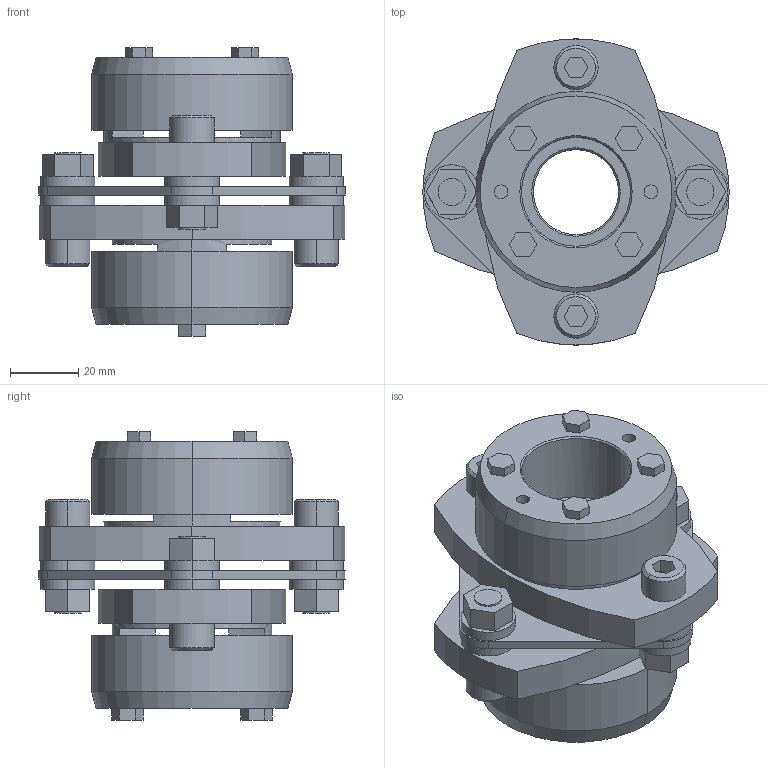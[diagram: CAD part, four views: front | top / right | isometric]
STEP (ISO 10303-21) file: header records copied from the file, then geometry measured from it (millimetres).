
FILE_DESCRIPTION((''),'2;1');
FILE_NAME('LCS-90T7-25×32.stp','2011-09-09T10:11:45',(''),(''),'AutoCAD STEP 2000i','AutoCAD 2000i',', , ');
FILE_SCHEMA(('CONFIG_CONTROL_DESIGN'));
Length unit declared in the file: millimetre
Products named in the file (11): LCS-90T7-25×32; 忣兜1; LC90T7-T032; LC90T7-T030; LC90T7-T025-1; LC90T7-T025; LC90T7-T019-1; LC90T7-T019; LC90-B019-1; LC90-B019; LCS90-ITA
Assembly tree (10 placements, depth 2):
  LCS-90T7-25×32
    忣兜1
    LC90T7-T032
    LC90T7-T030
    LC90T7-T025-1
    LC90T7-T025
    LC90T7-T019-1
    LC90T7-T019
    LC90-B019-1
    LC90-B019
    LCS90-ITA
Bounding box: 90 x 89.94 x 84.8 mm (x, y, z)
Volume: 186376 mm3; surface area: 51289.7 mm2
Topology: 1 solids, 1 shells, 232 faces, 568 edges, 372 vertices
Faces by surface type: plane 132, cylinder 80, cone 20
Entity records: 7119 total; most frequent: DIRECTION 1250, CARTESIAN_POINT 1183, ORIENTED_EDGE 1136, EDGE_CURVE 568, AXIS2_PLACEMENT_3D 439, VERTEX_POINT 372, VECTOR 372, LINE 372
